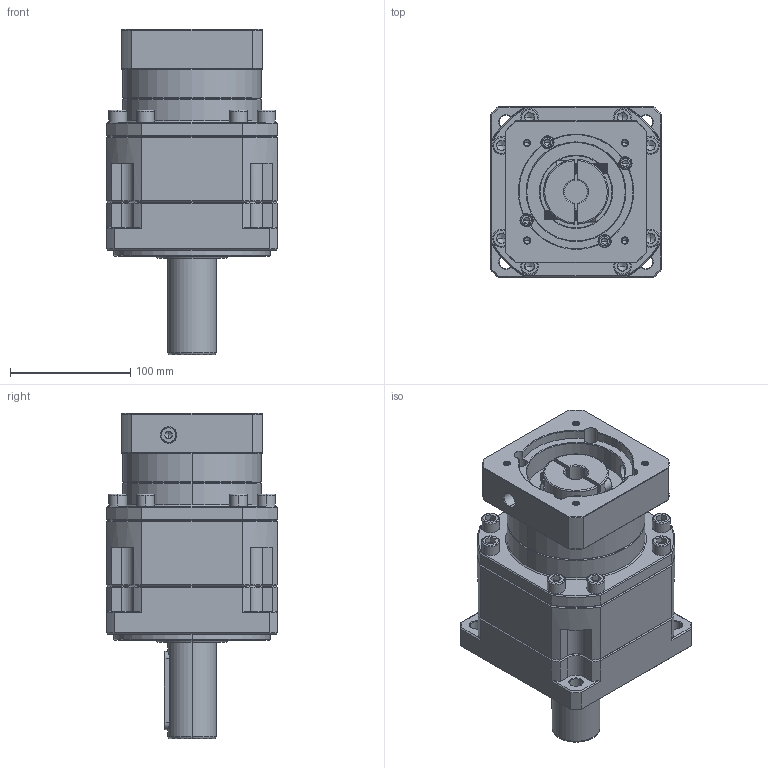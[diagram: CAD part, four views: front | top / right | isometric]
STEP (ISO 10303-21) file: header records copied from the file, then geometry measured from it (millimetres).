
FILE_DESCRIPTION (( 'STEP AP214' ), '1' );
FILE_NAME ('ZB142A-D40-L2-19-95-115-M6.step', '2023-03-18T07:03:57', ( '' ), ( '' ), 'SwSTEP 2.0', 'SolidWorks 2016', '' );
FILE_SCHEMA (( 'AUTOMOTIVE_DESIGN' ));
Length unit declared in the file: millimetre
Products named in the file (1): ZB142A-D40-L2-19-95-115-M6
Bounding box: 142 x 142 x 270.7 mm (x, y, z)
Volume: 2862535.6 mm3; surface area: 231072.2 mm2
Topology: 6 solids, 6 shells, 2281 faces, 5895 edges, 3731 vertices
Faces by surface type: plane 1025, cylinder 489, cone 402, bspline 327, torus 38
Entity records: 119809 total; most frequent: CARTESIAN_POINT 41725, ORIENTED_EDGE 11682, DIRECTION 9932, EDGE_CURVE 5841, VERTEX_POINT 3731, VECTOR 3592, LINE 3592, AXIS2_PLACEMENT_3D 3170
